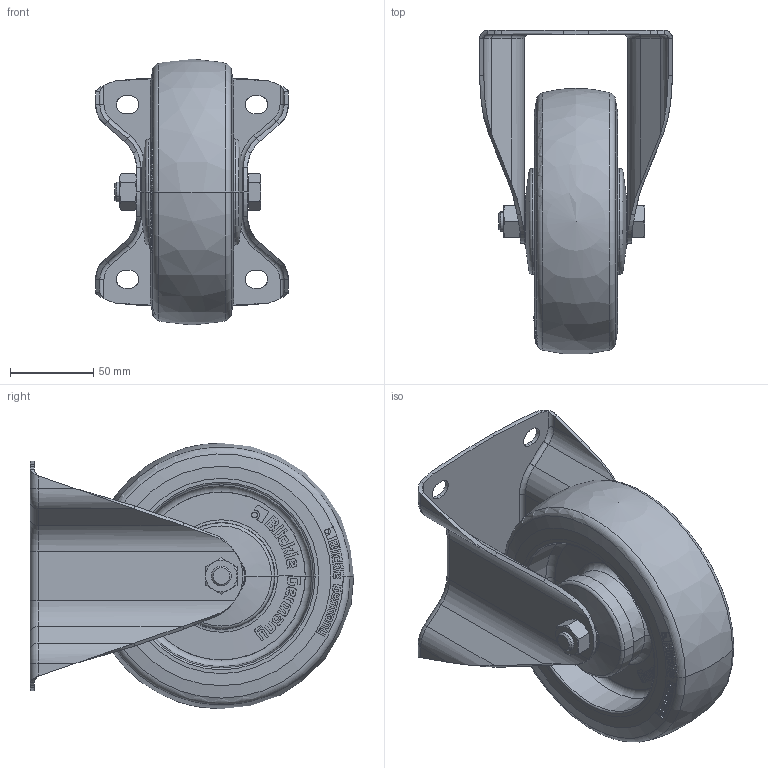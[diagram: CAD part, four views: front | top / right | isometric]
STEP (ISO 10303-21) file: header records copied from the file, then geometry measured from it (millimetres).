
FILE_DESCRIPTION (( 'STEP AP214' ), '1' );
FILE_NAME ('BX-POBS_160XKA_901188-214.step', '2021-12-13T10:54:20', ( '' ), ( '' ), 'SwSTEP 2.0', 'SolidWorks 2018', '' );
FILE_SCHEMA (( 'AUTOMOTIVE_DESIGN' ));
Length unit declared in the file: millimetre
Products named in the file (5): POBS_160_12XKA_G16_3D; GH-BX-160x60-03_12x62_G16_3D; POBS_3D_G16_POBS_160_12XKA_745619; BX-POBS_160XKA_901188-214; GH-BX_160-200_GH-BX-160x60-03_12x62
Assembly tree (4 placements, depth 3):
  BX-POBS_160XKA_901188-214
    GH-BX_160-200_GH-BX-160x60-03_12x62
      GH-BX-160x60-03_12x62_G16_3D
    POBS_3D_G16_POBS_160_12XKA_745619
      POBS_160_12XKA_G16_3D
Bounding box: 116 x 194.72 x 160 mm (x, y, z)
Volume: 743976.1 mm3; surface area: 199142.9 mm2
Topology: 2 solids, 9 shells, 2024 faces, 5528 edges, 3601 vertices
Faces by surface type: plane 860, bspline 632, cone 226, torus 192, cylinder 112, sphere 2
Entity records: 79671 total; most frequent: CARTESIAN_POINT 30355, ORIENTED_EDGE 11046, DIRECTION 6696, EDGE_CURVE 5523, VERTEX_POINT 3598, B_SPLINE_CURVE_WITH_KNOTS 2447, LINE 2258, VECTOR 2258
